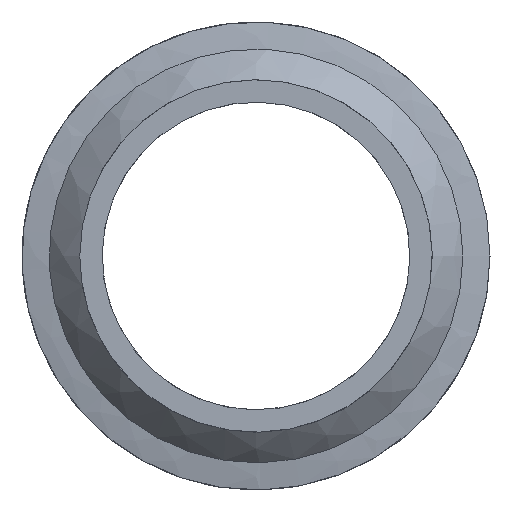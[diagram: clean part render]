
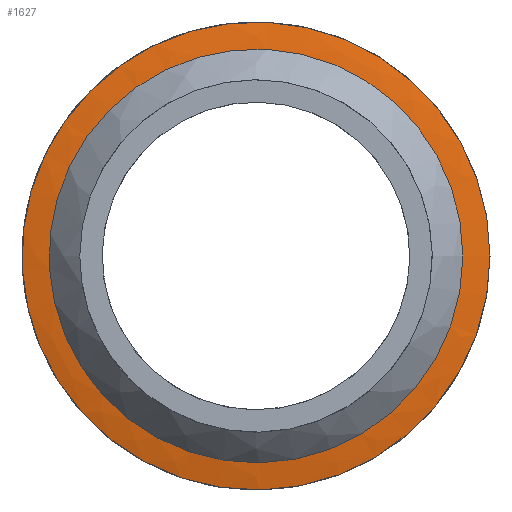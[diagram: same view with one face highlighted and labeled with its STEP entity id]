
A CAD part, left-side view. The second image highlights one B-rep face of the part: STEP entity #1627.
In plain terms, the highlighted free-form (B-spline) face has degree [2, 2] with [3, 9] control points.
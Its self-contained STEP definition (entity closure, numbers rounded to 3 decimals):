
#193=(
BOUNDED_CURVE()
B_SPLINE_CURVE(2,(#2368,#2369,#2370),.UNSPECIFIED.,.F.,.F.)
B_SPLINE_CURVE_WITH_KNOTS((3,3),(1.334,1.472),
 .UNSPECIFIED.)
CURVE()
GEOMETRIC_REPRESENTATION_ITEM()
RATIONAL_B_SPLINE_CURVE((1.,0.998,1.))
REPRESENTATION_ITEM('')
);
#195=(
BOUNDED_SURFACE()
B_SPLINE_SURFACE(2,2,((#2338,#2339,#2340,#2341,#2342,#2343,#2344,#2345,
#2346),(#2347,#2348,#2349,#2350,#2351,#2352,#2353,#2354,#2355),(#2356,#2357,
#2358,#2359,#2360,#2361,#2362,#2363,#2364)),.UNSPECIFIED.,.F.,.T.,.F.)
B_SPLINE_SURFACE_WITH_KNOTS((3,3),(3,2,2,2,3),(-1.472,-1.334),
(-3.142,-1.571,0.,1.571,3.142),
 .UNSPECIFIED.)
GEOMETRIC_REPRESENTATION_ITEM()
RATIONAL_B_SPLINE_SURFACE(((1.,0.707,1.,0.707,1.,
0.707,1.,0.707,1.),(0.998,0.705,
0.998,0.705,0.998,0.705,
0.998,0.705,0.998),(1.,0.707,
1.,0.707,1.,0.707,1.,0.707,1.)))
REPRESENTATION_ITEM('')
SURFACE()
);
#297=FACE_OUTER_BOUND('',#397,.T.);
#397=EDGE_LOOP('',(#1042,#1043,#1044,#1045,#1046,#1047));
#533=CIRCLE('',#1730,53.05);
#534=CIRCLE('',#1731,53.05);
#536=CIRCLE('',#1734,60.);
#537=CIRCLE('',#1735,60.);
#616=VERTEX_POINT('',#2328);
#617=VERTEX_POINT('',#2329);
#619=VERTEX_POINT('',#2365);
#620=VERTEX_POINT('',#2366);
#801=EDGE_CURVE('',#616,#617,#533,.T.);
#803=EDGE_CURVE('',#617,#616,#534,.T.);
#805=EDGE_CURVE('',#619,#620,#536,.T.);
#806=EDGE_CURVE('',#620,#617,#193,.T.);
#807=EDGE_CURVE('',#620,#619,#537,.T.);
#1042=ORIENTED_EDGE('',*,*,#805,.T.);
#1043=ORIENTED_EDGE('',*,*,#806,.T.);
#1044=ORIENTED_EDGE('',*,*,#801,.F.);
#1045=ORIENTED_EDGE('',*,*,#803,.F.);
#1046=ORIENTED_EDGE('',*,*,#806,.F.);
#1047=ORIENTED_EDGE('',*,*,#807,.T.);
#1627=ADVANCED_FACE('',(#297),#195,.F.);
#1730=AXIS2_PLACEMENT_3D('',#2330,#1922,#1923);
#1731=AXIS2_PLACEMENT_3D('',#2334,#1924,#1925);
#1734=AXIS2_PLACEMENT_3D('',#2367,#1930,#1931);
#1735=AXIS2_PLACEMENT_3D('',#2371,#1932,#1933);
#1922=DIRECTION('center_axis',(-1.,0.,0.));
#1923=DIRECTION('ref_axis',(0.,1.,0.));
#1924=DIRECTION('center_axis',(-1.,0.,0.));
#1925=DIRECTION('ref_axis',(0.,1.,0.));
#1930=DIRECTION('center_axis',(-1.,0.,0.));
#1931=DIRECTION('ref_axis',(0.,1.,0.));
#1932=DIRECTION('center_axis',(-1.,0.,0.));
#1933=DIRECTION('ref_axis',(0.,1.,0.));
#2328=CARTESIAN_POINT('',(42.,25.434,-46.556));
#2329=CARTESIAN_POINT('',(42.,-53.05,0.));
#2330=CARTESIAN_POINT('Origin',(42.,0.,0.));
#2334=CARTESIAN_POINT('Origin',(42.,0.,0.));
#2338=CARTESIAN_POINT('Ctrl Pts',(42.,-53.05,0.));
#2339=CARTESIAN_POINT('Ctrl Pts',(42.,-53.05,-53.05));
#2340=CARTESIAN_POINT('Ctrl Pts',(42.,0.,
-53.05));
#2341=CARTESIAN_POINT('Ctrl Pts',(42.,53.05,-53.05));
#2342=CARTESIAN_POINT('Ctrl Pts',(42.,53.05,0.));
#2343=CARTESIAN_POINT('Ctrl Pts',(42.,53.05,53.05));
#2344=CARTESIAN_POINT('Ctrl Pts',(42.,0.,
53.05));
#2345=CARTESIAN_POINT('Ctrl Pts',(42.,-53.05,53.05));
#2346=CARTESIAN_POINT('Ctrl Pts',(42.,-53.05,0.));
#2347=CARTESIAN_POINT('Ctrl Pts',(42.347,-56.566,0.));
#2348=CARTESIAN_POINT('Ctrl Pts',(42.347,-56.566,-56.566));
#2349=CARTESIAN_POINT('Ctrl Pts',(42.347,0.,
-56.566));
#2350=CARTESIAN_POINT('Ctrl Pts',(42.347,56.566,-56.566));
#2351=CARTESIAN_POINT('Ctrl Pts',(42.347,56.566,0.));
#2352=CARTESIAN_POINT('Ctrl Pts',(42.347,56.566,56.566));
#2353=CARTESIAN_POINT('Ctrl Pts',(42.347,0.,
56.566));
#2354=CARTESIAN_POINT('Ctrl Pts',(42.347,-56.566,56.566));
#2355=CARTESIAN_POINT('Ctrl Pts',(42.347,-56.566,0.));
#2356=CARTESIAN_POINT('Ctrl Pts',(43.175,-60.,0.));
#2357=CARTESIAN_POINT('Ctrl Pts',(43.175,-60.,-60.));
#2358=CARTESIAN_POINT('Ctrl Pts',(43.175,0.,
-60.));
#2359=CARTESIAN_POINT('Ctrl Pts',(43.175,60.,-60.));
#2360=CARTESIAN_POINT('Ctrl Pts',(43.175,60.,0.));
#2361=CARTESIAN_POINT('Ctrl Pts',(43.175,60.,60.));
#2362=CARTESIAN_POINT('Ctrl Pts',(43.175,0.,
60.));
#2363=CARTESIAN_POINT('Ctrl Pts',(43.175,-60.,60.));
#2364=CARTESIAN_POINT('Ctrl Pts',(43.175,-60.,0.));
#2365=CARTESIAN_POINT('',(43.175,28.766,-52.655));
#2366=CARTESIAN_POINT('',(43.175,-60.,0.));
#2367=CARTESIAN_POINT('Origin',(43.175,0.,0.));
#2368=CARTESIAN_POINT('Ctrl Pts',(43.175,-60.,0.));
#2369=CARTESIAN_POINT('Ctrl Pts',(42.347,-56.566,0.));
#2370=CARTESIAN_POINT('Ctrl Pts',(42.,-53.05,0.));
#2371=CARTESIAN_POINT('Origin',(43.175,0.,0.));
